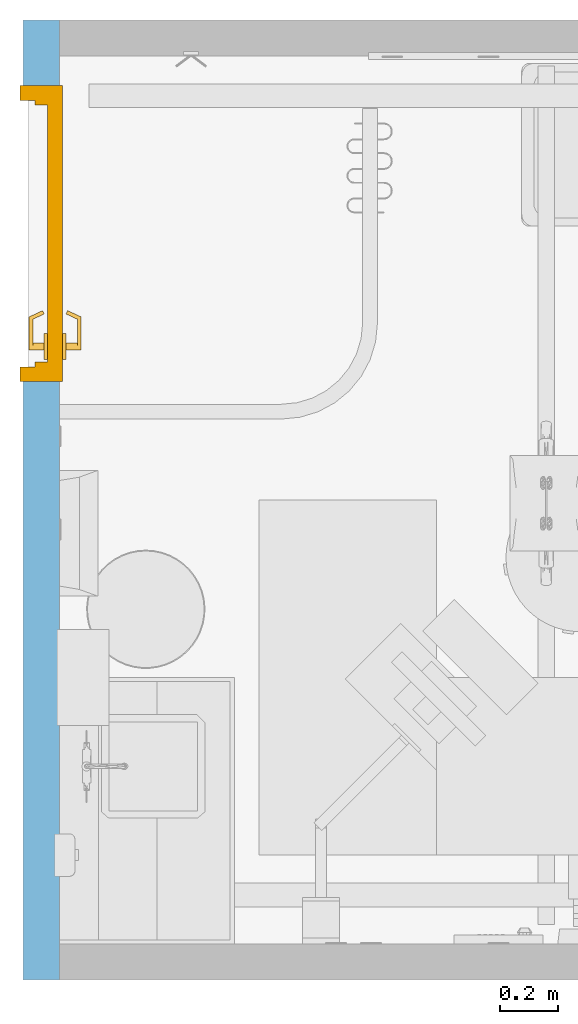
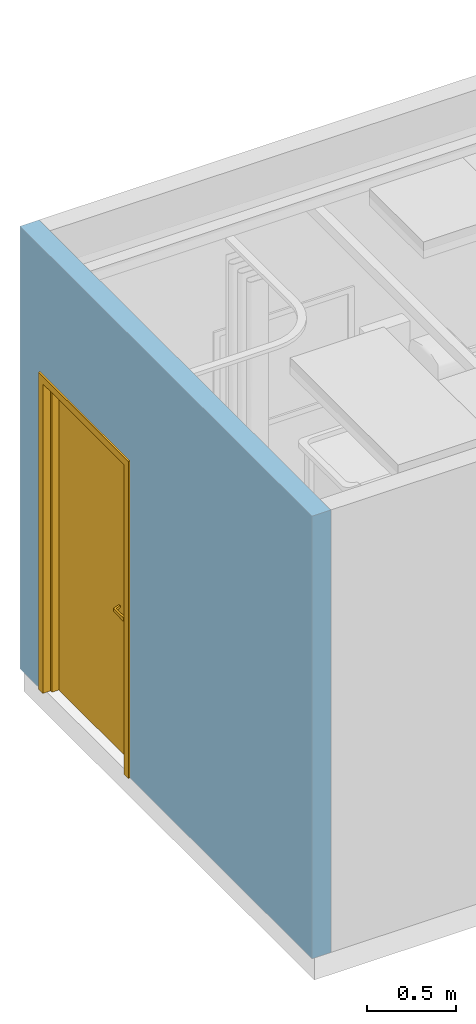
# One storey, part 3 of 8: 1 door, 1 opening, plus 1 element that does not belong to this part.
"""IFC2X3 building model written with IfcOpenShell, lengths in feet."""

import ifcopenshell
import ifcopenshell.guid

model = None  # the IFC model being written
_history = None  # IfcOwnerHistory: only IFC2X3 demands one
_inside = {}  # id of a spatial element -> (the spatial element, [elements in it])
_under = {}  # id of a project, library or spatial element -> (it, [spatial elements below it])
_declared = {}  # id of a project -> (the project, [libraries it declares])
_typed = {}  # id of a type object -> (the type object, [elements of that type])
_made_of = {}  # id of a material, layer set ... -> (it, [elements and type objects made of it])


def new_model(schema):
    """Start an empty IFC model of exactly this schema.

    Asked for "IFC4X3", IfcOpenShell would pick the latest addendum, in which some entities
    have other attributes; the version numbers below select the first issue.
    IFC2X3 requires an IfcOwnerHistory on every rooted entity: one is made here for all.
    """
    global model, _history
    if schema == "IFC4X3":
        model = ifcopenshell.file(schema_version=(4, 3, 0, 0))
    else:
        model = ifcopenshell.file(schema=schema)
    _inside.clear()
    _under.clear()
    _declared.clear()
    _typed.clear()
    _made_of.clear()
    _history = None
    if model.schema == "IFC2X3":
        org = make("IfcOrganization", Name="unknown")
        user = make(
            "IfcPersonAndOrganization",
            ThePerson=make("IfcPerson", FamilyName="unknown"),
            TheOrganization=org,
        )
        app = make(
            "IfcApplication",
            ApplicationDeveloper=org,
            Version="unknown",
            ApplicationFullName="unknown",
            ApplicationIdentifier="unknown",
        )
        _history = make(
            "IfcOwnerHistory",
            OwningUser=user,
            OwningApplication=app,
            ChangeAction="ADDED",
            CreationDate=0,
        )
    return model


def make(cls, **values):
    """One entity of the class cls with the attributes given. An attribute that is None is left unset."""
    return model.create_entity(
        cls, **{name: value for name, value in values.items() if value is not None}
    )


def entity(cls, *values):
    """Any entity or typed value of the class cls, its attributes in the order of the schema. None: left unset."""
    e = model.create_entity(cls)
    for i, value in enumerate(values):
        if value is not None:
            e[i] = value
    return e


def rooted(cls, **values):
    """An entity with a GlobalId (a new one), such as an element, a storey or a relation."""
    return make(cls, GlobalId=ifcopenshell.guid.new(), OwnerHistory=_history, **values)


def si_unit(unit_type, name, prefix=None):
    """IfcSIUnit, for example si_unit("LENGTHUNIT", "METRE", prefix="MILLI")."""
    return make("IfcSIUnit", UnitType=unit_type, Prefix=prefix, Name=name)


def converted_unit(unit_type, name, factor, base, dimensions=None, offset=None):
    """IfcConversionBasedUnit, such as the inch: factor (a typed value) times the base unit."""
    return make(
        "IfcConversionBasedUnit"
        if offset is None
        else "IfcConversionBasedUnitWithOffset",
        ConversionOffset=offset,
        Dimensions=None
        if dimensions is None
        else entity("IfcDimensionalExponents", *dimensions),
        UnitType=unit_type,
        Name=name,
        ConversionFactor=make(
            "IfcMeasureWithUnit", ValueComponent=factor, UnitComponent=base
        ),
    )


def derived_unit(unit_type, elements):
    """IfcDerivedUnit: a product of units, each with its exponent."""
    return make(
        "IfcDerivedUnit",
        Elements=[
            make("IfcDerivedUnitElement", Unit=unit, Exponent=power)
            for unit, power in elements
        ],
        UnitType=unit_type,
    )


def assignment(units):
    """IfcUnitAssignment: the units of a project."""
    return None if units is None else make("IfcUnitAssignment", Units=units)


def point(xyz):
    """IfcCartesianPoint."""
    return None if xyz is None else make("IfcCartesianPoint", Coordinates=xyz)


def direction(xyz):
    """IfcDirection."""
    return None if xyz is None else make("IfcDirection", DirectionRatios=xyz)


def frame(location, z_axis=None, x_axis=None):
    """IfcAxis2Placement3D, a coordinate frame: its origin and axes. An axis left out is left unset."""
    return make(
        "IfcAxis2Placement3D",
        Location=point(location),
        Axis=direction(z_axis),
        RefDirection=direction(x_axis),
    )


def frame_2d(location, x_axis=None):
    """IfcAxis2Placement2D, a coordinate frame in the plane: its origin and x axis."""
    return make(
        "IfcAxis2Placement2D", Location=point(location), RefDirection=direction(x_axis)
    )


def origin():
    """The frame at (0, 0, 0) with its axes left unset."""
    return frame((0.0, 0.0, 0.0))


def place(relative_to, where):
    """IfcLocalPlacement: puts the frame where relative to a parent placement (None: the world)."""
    return make(
        "IfcLocalPlacement", PlacementRelTo=relative_to, RelativePlacement=where
    )


def context(
    kind, dimensions, precision=None, world=None, true_north=None, identifier=None
):
    """IfcGeometricRepresentationContext, for example the 3D "Model" context."""
    return make(
        "IfcGeometricRepresentationContext",
        ContextIdentifier=identifier,
        ContextType=kind,
        CoordinateSpaceDimension=dimensions,
        Precision=precision,
        WorldCoordinateSystem=world,
        TrueNorth=true_north,
    )


def subcontext(parent, identifier, kind, view, scale=None):
    """IfcGeometricRepresentationSubContext, for example "Body" below "Model"."""
    return make(
        "IfcGeometricRepresentationSubContext",
        ContextIdentifier=identifier,
        ContextType=kind,
        ParentContext=parent,
        TargetScale=scale,
        TargetView=view,
    )


def project(units=None, contexts=None):
    """IfcProject with its units and contexts."""
    return rooted(
        "IfcProject",
        Name="project",
        RepresentationContexts=contexts,
        UnitsInContext=assignment(units),
    )


def spatial(cls, under=None, at=None, **own):
    """A site, building, storey or space (cls), placed at a placement, below another one or the project."""
    s = rooted(cls, ObjectPlacement=at, **own)
    if under is not None:
        _under.setdefault(under.id(), (under, []))[1].append(s)
    return s


def profile(cls, at=None, kind="AREA", **sizes):
    """A parametric profile (cls). Its sizes go by their IFC names, for example OverallWidth=200.0."""
    return make(cls, ProfileType=kind, Position=at, **sizes)


def rectangle(**sizes):
    """IfcRectangleProfileDef."""
    return profile("IfcRectangleProfileDef", **sizes)


def extrude(swept, where, along, depth):
    """IfcExtrudedAreaSolid: the profile swept, set in the frame where, extruded along a direction by depth."""
    return make(
        "IfcExtrudedAreaSolid",
        SweptArea=swept,
        Position=where,
        ExtrudedDirection=direction(along),
        Depth=depth,
    )


def faces_of(points, faces, orient=None, outer=None):
    """IfcFace entities. A face is a list of loops; a loop is a list of indices into points, from 0.

    orient and outer hold one flag for each loop. By default every Orientation is true, the
    first loop of a face is its IfcFaceOuterBound and the others are IfcFaceBound.
    """
    made = []
    for i, loops in enumerate(faces):
        bounds = []
        for j, loop in enumerate(loops):
            is_outer = j == 0 if outer is None else outer[i][j]
            bounds.append(
                make(
                    "IfcFaceOuterBound" if is_outer else "IfcFaceBound",
                    Bound=make("IfcPolyLoop", Polygon=[points[k] for k in loop]),
                    Orientation=True if orient is None else orient[i][j],
                )
            )
        made.append(make("IfcFace", Bounds=bounds))
    return made


def faceted_brep(points, faces, orient=None, outer=None, voids=None):
    """IfcFacetedBrep: a solid bounded by flat faces; with voids (closed shells), ...WithVoids."""
    shared = [point(p) for p in points]
    hull = make("IfcClosedShell", CfsFaces=faces_of(shared, faces, orient, outer))
    if voids is None:
        return make("IfcFacetedBrep", Outer=hull)
    return make(
        "IfcFacetedBrepWithVoids",
        Outer=hull,
        Voids=[
            make(cls, CfsFaces=faces_of(shared, fs, o, b)) for cls, fs, o, b in voids
        ],
    )


def shape(context_of_items, identifier, shape_type, items):
    """IfcShapeRepresentation: the items that make up one representation, for example the "Body"."""
    return make(
        "IfcShapeRepresentation",
        ContextOfItems=context_of_items,
        RepresentationIdentifier=identifier,
        RepresentationType=shape_type,
        Items=items,
    )


def source(mapping_origin, context_of_items, identifier, shape_type, items):
    """IfcRepresentationMap: a shape defined once, which mapped items show again and again."""
    return make(
        "IfcRepresentationMap",
        MappingOrigin=mapping_origin,
        MappedRepresentation=shape(context_of_items, identifier, shape_type, items),
    )


def transform(
    local_origin,
    x_axis=None,
    y_axis=None,
    z_axis=None,
    scale=None,
    scale2=None,
    scale3=None,
    uniform=True,
):
    """IfcCartesianTransformationOperator3D, or its non-uniform kind. x_axis, y_axis, z_axis: its Axis1, 2, 3."""
    if uniform:
        return make(
            "IfcCartesianTransformationOperator3D",
            Axis1=direction(x_axis),
            Axis2=direction(y_axis),
            LocalOrigin=point(local_origin),
            Scale=scale,
            Axis3=direction(z_axis),
        )
    return make(
        "IfcCartesianTransformationOperator3DnonUniform",
        Axis1=direction(x_axis),
        Axis2=direction(y_axis),
        LocalOrigin=point(local_origin),
        Scale=scale,
        Axis3=direction(z_axis),
        Scale2=scale2,
        Scale3=scale3,
    )


def mapped(mapping_source, mapping_target):
    """IfcMappedItem: shows the shape of a source again, moved by a transform."""
    return make(
        "IfcMappedItem", MappingSource=mapping_source, MappingTarget=mapping_target
    )


def material(Name=None, Category=None):
    """IfcMaterial."""
    return make("IfcMaterial", Name=Name, Category=Category)


def layer(
    of_material, thickness, ventilated=None, Name=None, Category=None, Priority=None
):
    """IfcMaterialLayer: one layer of a wall or slab, of a material (None: an air gap)."""
    return make(
        "IfcMaterialLayer",
        Material=of_material,
        LayerThickness=thickness,
        IsVentilated=ventilated,
        Name=Name,
        Category=Category,
        Priority=Priority,
    )


def layer_set(layers, Name=None):
    """IfcMaterialLayerSet."""
    return make("IfcMaterialLayerSet", MaterialLayers=layers, LayerSetName=Name)


def layer_usage(for_layer_set, set_direction, sense, offset, extent=None):
    """IfcMaterialLayerSetUsage: how a layer set lies in its element."""
    return make(
        "IfcMaterialLayerSetUsage",
        ForLayerSet=for_layer_set,
        LayerSetDirection=set_direction,
        DirectionSense=sense,
        OffsetFromReferenceLine=offset,
        ReferenceExtent=extent,
    )


def made_of(thing, what):
    """Note that an element or type object is made of a material, layer set ...; save() writes the relation."""
    if what is not None:
        _made_of.setdefault(what.id(), (what, []))[1].append(thing)
    return thing


def type_object(cls, material=None, **own):
    """A type object (cls), such as IfcWallType, which elements share."""
    return made_of(rooted(cls, **own), material)


def type_shapes(of_type, sources):
    """Give a type object the sources (RepresentationMaps) that its elements show as mapped items."""
    of_type.RepresentationMaps = sources


def element(
    cls,
    number,
    at=None,
    inside=None,
    cuts=None,
    type_object=None,
    material=None,
    context=None,
    identifier="Body",
    shape_type=None,
    held_by="IfcProductDefinitionShape",
    body=None,
    shapes=None,
    **own,
):
    """One element of the class cls, such as IfcWall. Its Tag is "e" and its number.

    at: its placement. inside: the storey or other place that contains it. cuts: it is an
    opening in that element (IfcRelVoidsElement). A single representation is given by context,
    identifier, shape_type and body (its items); several are given by shapes. held_by: the class
    of the entity that holds the representations. save() writes the other relations.
    """
    e = rooted(cls, Tag="e%d" % number, ObjectPlacement=at, **own)
    if body is not None:
        shapes = [shape(context, identifier, shape_type, body)]
    if shapes is not None:
        e.Representation = make(held_by, Representations=shapes)
    if inside is not None:
        _inside.setdefault(inside.id(), (inside, []))[1].append(e)
    if cuts is not None:
        rooted(
            "IfcRelVoidsElement", RelatingBuildingElement=cuts, RelatedOpeningElement=e
        )
    if type_object is not None:
        _typed.setdefault(type_object.id(), (type_object, []))[1].append(e)
    return made_of(e, material)


def fill(opening, filler):
    """IfcRelFillsElement: the door or window that sits in an opening."""
    return rooted(
        "IfcRelFillsElement",
        RelatingOpeningElement=opening,
        RelatedBuildingElement=filler,
    )


def aggregate(whole, parts):
    """IfcRelAggregates: a whole, such as a stair, and the parts it consists of."""
    return rooted("IfcRelAggregates", RelatingObject=whole, RelatedObjects=parts)


def save(model, path):
    """Write the relations noted so far, then the file.

    IfcRelAggregates (storeys below a building ...), IfcRelContainedInSpatialStructure (elements
    in a storey), IfcRelDefinesByType, IfcRelAssociatesMaterial and IfcRelDeclares: one each for
    every whole, place, type object, material and project.
    """
    for whole, parts in _under.values():
        aggregate(whole, parts)
    for where, things in _inside.values():
        rooted(
            "IfcRelContainedInSpatialStructure",
            RelatedElements=things,
            RelatingStructure=where,
        )
    for kind, things in _typed.values():
        rooted("IfcRelDefinesByType", RelatedObjects=things, RelatingType=kind)
    for what, things in _made_of.values():
        rooted("IfcRelAssociatesMaterial", RelatedObjects=things, RelatingMaterial=what)
    for by, libraries in _declared.values():
        rooted("IfcRelDeclares", RelatingContext=by, RelatedDefinitions=libraries)
    model.write(path)


model = new_model("IFC2X3")

# Units and contexts
model_context = context("Model", 3, precision=0.0001, world=origin(), true_north=direction((6.12303176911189e-17, 1.0)))
body_context = subcontext(model_context, "Body", "Model", "MODEL_VIEW")
ifc_project = project(units=[converted_unit("LENGTHUNIT", "FOOT", entity("IfcRatioMeasure", 0.3048), si_unit("LENGTHUNIT", "METRE"), dimensions=[1, 0, 0, 0, 0, 0, 0]), converted_unit("AREAUNIT", "SQUARE FOOT", entity("IfcRatioMeasure", 0.09290304), si_unit("AREAUNIT", "SQUARE_METRE"), dimensions=[2, 0, 0, 0, 0, 0, 0]), converted_unit("VOLUMEUNIT", "CUBIC FOOT", entity("IfcRatioMeasure", 0.028316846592), si_unit("VOLUMEUNIT", "CUBIC_METRE"), dimensions=[3, 0, 0, 0, 0, 0, 0]), converted_unit("PLANEANGLEUNIT", "DEGREE", entity("IfcRatioMeasure", 0.0174532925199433), si_unit("PLANEANGLEUNIT", "RADIAN"), dimensions=[0, 0, 0, 0, 0, 0, 0]), si_unit("MASSUNIT", "GRAM", prefix="KILO"), derived_unit("MASSDENSITYUNIT", [(si_unit("MASSUNIT", "GRAM", prefix="KILO"), 1), (si_unit("LENGTHUNIT", "METRE"), -3)]), si_unit("TIMEUNIT", "SECOND"), si_unit("FREQUENCYUNIT", "HERTZ"), si_unit("THERMODYNAMICTEMPERATUREUNIT", "DEGREE_CELSIUS"), derived_unit("THERMALTRANSMITTANCEUNIT", [(si_unit("MASSUNIT", "GRAM", prefix="KILO"), 1), (si_unit("THERMODYNAMICTEMPERATUREUNIT", "KELVIN"), -1), (si_unit("TIMEUNIT", "SECOND"), -3)]), derived_unit("VOLUMETRICFLOWRATEUNIT", [(si_unit("LENGTHUNIT", "METRE"), 3), (si_unit("TIMEUNIT", "SECOND"), -1)]), si_unit("ELECTRICCURRENTUNIT", "AMPERE"), si_unit("ELECTRICVOLTAGEUNIT", "VOLT"), si_unit("POWERUNIT", "WATT"), si_unit("FORCEUNIT", "NEWTON"), si_unit("ILLUMINANCEUNIT", "LUX"), si_unit("LUMINOUSFLUXUNIT", "LUMEN"), si_unit("LUMINOUSINTENSITYUNIT", "CANDELA"), derived_unit("USERDEFINED", [(si_unit("MASSUNIT", "GRAM", prefix="KILO"), -1), (si_unit("LENGTHUNIT", "METRE"), -2), (si_unit("TIMEUNIT", "SECOND"), 3), (si_unit("LUMINOUSFLUXUNIT", "LUMEN"), 1)]), derived_unit("LINEARVELOCITYUNIT", [(si_unit("LENGTHUNIT", "METRE"), 1), (si_unit("TIMEUNIT", "SECOND"), -1)]), si_unit("PRESSUREUNIT", "PASCAL"), derived_unit("USERDEFINED", [(si_unit("LENGTHUNIT", "METRE"), -2), (si_unit("MASSUNIT", "GRAM", prefix="KILO"), 1), (si_unit("TIMEUNIT", "SECOND"), -2)])], contexts=[model_context])

# Site, building, storey
site_placement = place(None, origin())
site = spatial("IfcSite", under=ifc_project, at=site_placement, Name="Default", CompositionType="ELEMENT")
building_placement = place(site_placement, origin())
building = spatial("IfcBuilding", under=site, at=building_placement, Name="OUTPATIENT / PACT CLINIC (Ch. 265)", CompositionType="ELEMENT")
storey_placement = place(building_placement, origin())
storey = spatial("IfcBuildingStorey", under=building, at=storey_placement, Name="DATUM", CompositionType="ELEMENT", Elevation=0.0)

# Wall, opening, door
ifc_material = material(Name="<Unnamed>")
ifc_layer = layer(ifc_material, 0.40625)
ifc_layer_set = layer_set([ifc_layer], Name="Basic Wall:Interior - 4 7/8\"")
ifc_layer_usage = layer_usage(ifc_layer_set, "AXIS2", "POSITIVE", -0.203125)
wall_type = type_object("IfcWallType", Name="Basic Wall:Interior - 4 7/8\"", PredefinedType="STANDARD", material=ifc_layer_set)
wall_placement = place(storey_placement, frame((-207.789054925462, -850.470556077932, 0.0), z_axis=(0.0, 0.0, 1.0), x_axis=(0.0, -1.0, 0.0)))
wall = element("IfcWallStandardCase", 1, at=wall_placement, inside=storey, type_object=wall_type, material=ifc_layer_usage, Name="Basic Wall:Interior - 4 7/8\"", ObjectType="Basic Wall:Interior - 4 7/8\"", context=body_context, shape_type="SweptSolid", body=[
    extrude(rectangle(XDim=10.8125, YDim=0.40625, at=frame_2d((5.40625, 9.00668428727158e-15), x_axis=(-1.0, 0.0))), origin(), (0.0, 0.0, 1.0), 10.0),
])
opening_placement = place(wall_placement, frame((0.739583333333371, -0.203125, 0.0)))
opening = element("IfcOpeningElement", 2, at=opening_placement, cuts=wall, Name="Single - Flush:36\" x 84\":1", ObjectType="Opening", context=body_context, shape_type="SweptSolid", body=[
    extrude(rectangle(XDim=3.33333333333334, YDim=7.16666666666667, at=frame_2d((3.58333333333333, 1.66666666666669), x_axis=(0.0, -1.0))), frame((0.0, 0.0, 0.0), z_axis=(0.0, 1.0, 0.0), x_axis=(0.0, 0.0, 1.0)), (0.0, 0.0, 1.0), 0.40625),
])
door_style = type_object("IfcDoorStyle", Name="36\" x 84\"", ConstructionType="NOTDEFINED", OperationType="NOTDEFINED", ParameterTakesPrecedence=False, Sizeable=False)
shared_shape = source(origin(), body_context, "Body", "Brep", [
    faceted_brep([(2.62432039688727, 0.123080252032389, 3.36458333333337), (2.63071126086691, 0.109375, 3.36458333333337), (2.63071126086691, 0.109375, 3.30208333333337), (2.62432039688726, 0.12308025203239, 3.30208333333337), (2.57149311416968, 0.23636872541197, 3.31250000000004), (2.57149311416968, 0.23636872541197, 3.3541666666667), (2.53373028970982, 0.218759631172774, 3.31250000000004), (2.5865575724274, 0.105471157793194, 3.30208333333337), (2.6041666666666, 0.0677083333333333, 3.30208333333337), (2.6041666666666, 0.067708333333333, 3.36458333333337), (2.58655757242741, 0.105471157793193, 3.36458333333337), (2.53373028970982, 0.218759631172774, 3.3541666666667), (2.6041666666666, 0.109375, 3.30208333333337), (2.6041666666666, 0.109375, 3.36458333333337), (2.93619600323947, 0.0677083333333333, 3.29168707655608), (2.94639661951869, 0.0677083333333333, 3.29262754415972), (2.95605949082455, 0.0677083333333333, 3.29602842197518), (2.9646005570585, 0.0677083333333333, 3.3016841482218), (2.97150356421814, 0.0677083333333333, 3.30925286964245), (2.97635126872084, 0.0677083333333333, 3.31827710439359), (2.97885065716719, 0.0677083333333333, 3.32821139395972), (2.97885065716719, 0.0677083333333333, 3.33845527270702), (2.97635126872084, 0.0677083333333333, 3.34838956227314), (2.97150356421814, 0.0677083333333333, 3.35741379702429), (2.9646005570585, 0.0677083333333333, 3.36498251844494), (2.95605949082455, 0.0677083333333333, 3.37063824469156), (2.94639661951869, 0.0677083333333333, 3.37403912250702), (2.93619600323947, 0.0677083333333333, 3.37497959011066), (2.92566985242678, 0.109375, 3.29338137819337), (2.93619600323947, 0.109375, 3.29168707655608), (2.93619600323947, 0.109375, 3.37497959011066), (2.92566985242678, 0.109375, 3.37328528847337), (2.91591827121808, 0.109375, 3.36897516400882), (2.90757973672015, 0.109375, 3.36233141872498), (2.90120020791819, 0.109375, 3.35378904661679), (2.8971973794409, 0.109375, 3.34390735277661), (2.89583333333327, 0.109375, 3.33333333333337), (2.8971973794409, 0.109375, 3.32275931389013), (2.90120020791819, 0.109375, 3.31287762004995), (2.90757973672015, 0.109375, 3.30433524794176), (2.91591827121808, 0.109375, 3.29769150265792), (2.94568224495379, 0.109375, 3.29247795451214), (2.95473886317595, 0.109375, 3.2954000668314), (2.96289592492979, 0.109375, 3.30030065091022), (2.96972778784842, 0.109375, 3.30692347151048), (2.97487870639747, 0.109375, 3.31492291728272), (2.97808054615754, 0.109375, 3.32388185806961), (2.9791666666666, 0.109375, 3.33333333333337), (2.97808054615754, 0.109375, 3.34278480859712), (2.97487870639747, 0.109375, 3.35174374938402), (2.96972778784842, 0.109375, 3.35974319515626), (2.96289592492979, 0.109375, 3.36636601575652), (2.95473886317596, 0.109375, 3.37126659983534), (2.94568224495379, 0.109375, 3.3741887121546), (2.97774690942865, 0.234375, 3.34411746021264), (2.9791666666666, 0.234375, 3.33333333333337), (2.97358439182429, 0.234375, 3.3541666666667), (2.96696278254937, 0.234375, 3.36279611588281), (2.95833333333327, 0.234375, 3.36941772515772), (2.94828412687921, 0.234375, 3.37358024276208), (2.93749999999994, 0.234375, 3.37500000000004), (2.92671587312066, 0.234375, 3.37358024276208), (2.9166666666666, 0.234375, 3.36941772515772), (2.9080372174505, 0.234375, 3.36279611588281), (2.90141560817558, 0.234375, 3.3541666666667), (2.89725309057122, 0.234375, 3.34411746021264), (2.89583333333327, 0.234375, 3.33333333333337), (2.89725309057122, 0.234375, 3.3225492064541), (2.90141560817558, 0.234375, 3.31250000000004), (2.9080372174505, 0.234375, 3.30387055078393), (2.9166666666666, 0.234375, 3.29724894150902), (2.92671587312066, 0.234375, 3.29308642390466), (2.93749999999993, 0.234375, 3.2916666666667), (2.94828412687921, 0.234375, 3.29308642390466), (2.95833333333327, 0.234375, 3.29724894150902), (2.96696278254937, 0.234375, 3.30387055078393), (2.97358439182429, 0.234375, 3.31250000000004), (2.97774690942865, 0.234375, 3.3225492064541), (2.86458333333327, 0.234375, 3.4596287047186), (2.8343802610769, 0.234375, 3.43645307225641), (2.89975555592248, 0.234375, 3.47419751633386), (2.93749999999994, 0.234375, 3.4791666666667), (2.97524444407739, 0.234375, 3.47419751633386), (3.0104166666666, 0.234375, 3.4596287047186), (3.04061973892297, 0.234375, 3.43645307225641), (3.06379537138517, 0.234375, 3.40625000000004), (3.07836418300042, 0.234375, 3.37107777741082), (3.08333333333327, 0.234375, 3.33333333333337), (3.07836418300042, 0.234375, 3.29558888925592), (3.06379537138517, 0.234375, 3.2604166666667), (3.04061973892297, 0.234375, 3.23021359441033), (3.0104166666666, 0.234375, 3.20703796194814), (2.97524444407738, 0.234375, 3.19246915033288), (2.93749999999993, 0.234375, 3.18750000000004), (2.89975555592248, 0.234375, 3.19246915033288), (2.86458333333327, 0.234375, 3.20703796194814), (2.8343802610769, 0.234375, 3.23021359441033), (2.8112046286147, 0.234375, 3.2604166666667), (2.79663581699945, 0.234375, 3.29558888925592), (2.7916666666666, 0.234375, 3.33333333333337), (2.79663581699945, 0.234375, 3.37107777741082), (2.8112046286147, 0.234375, 3.40625000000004), (2.8343802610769, 0.276041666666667, 3.23021359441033), (2.8112046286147, 0.276041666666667, 3.2604166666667), (2.79663581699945, 0.276041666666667, 3.29558888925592), (2.7916666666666, 0.276041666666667, 3.33333333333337), (2.79663581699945, 0.276041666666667, 3.37107777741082), (2.8112046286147, 0.276041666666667, 3.40625000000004), (2.8343802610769, 0.276041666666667, 3.43645307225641), (2.86458333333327, 0.276041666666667, 3.4596287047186), (2.89975555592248, 0.276041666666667, 3.47419751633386), (2.93749999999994, 0.276041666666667, 3.4791666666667), (2.97524444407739, 0.276041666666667, 3.47419751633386), (3.0104166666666, 0.276041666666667, 3.4596287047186), (3.04061973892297, 0.276041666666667, 3.43645307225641), (3.06379537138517, 0.276041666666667, 3.40625000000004), (3.07836418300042, 0.276041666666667, 3.37107777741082), (3.08333333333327, 0.276041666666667, 3.33333333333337), (3.07836418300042, 0.276041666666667, 3.29558888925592), (3.06379537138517, 0.276041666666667, 3.2604166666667), (3.04061973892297, 0.276041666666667, 3.23021359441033), (3.0104166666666, 0.276041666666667, 3.20703796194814), (2.97524444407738, 0.276041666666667, 3.19246915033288), (2.93749999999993, 0.276041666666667, 3.18750000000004), (2.89975555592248, 0.276041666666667, 3.19246915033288), (2.86458333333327, 0.276041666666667, 3.20703796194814)], [[[0, 1, 2, 3, 4, 5]], [[6, 7, 8, 9, 10, 11]], [[3, 2, 12, 8, 7]], [[4, 3, 7, 6]], [[5, 4, 6, 11]], [[0, 5, 11, 10]], [[1, 0, 10, 9, 13]], [[9, 8, 14, 15, 16, 17, 18, 19, 20, 21, 22, 23, 24, 25, 26, 27]], [[28, 29, 12, 2, 1, 13, 30, 31, 32, 33, 34, 35, 36, 37, 38, 39, 40]], [[14, 8, 12, 29]], [[41, 14, 29]], [[42, 15, 41]], [[17, 43, 44]], [[44, 45, 18]], [[42, 43, 16]], [[46, 19, 45]], [[42, 16, 15]], [[15, 14, 41]], [[19, 18, 45]], [[17, 44, 18]], [[17, 16, 43]], [[20, 19, 46]], [[46, 47, 20]], [[48, 21, 47]], [[49, 22, 48]], [[24, 50, 51]], [[51, 52, 25]], [[49, 50, 23]], [[53, 26, 52]], [[24, 23, 50]], [[23, 22, 49]], [[22, 21, 48]], [[27, 26, 53]], [[25, 52, 26]], [[25, 24, 51]], [[27, 53, 30]], [[47, 21, 20]], [[9, 27, 30, 13]], [[54, 48, 55]], [[56, 49, 54]], [[51, 57, 58]], [[56, 57, 50]], [[52, 58, 59]], [[54, 49, 48]], [[48, 47, 55]], [[52, 51, 58]], [[50, 57, 51]], [[50, 49, 56]], [[53, 52, 59]], [[59, 60, 53]], [[61, 30, 60]], [[62, 31, 61]], [[33, 63, 64]], [[64, 65, 34]], [[62, 63, 32]], [[66, 35, 65]], [[62, 32, 31]], [[31, 30, 61]], [[35, 34, 65]], [[33, 64, 34]], [[33, 32, 63]], [[36, 35, 66]], [[60, 30, 53]], [[67, 37, 66]], [[68, 38, 67]], [[40, 69, 70]], [[68, 69, 39]], [[28, 70, 71]], [[67, 38, 37]], [[37, 36, 66]], [[28, 40, 70]], [[39, 69, 40]], [[39, 38, 68]], [[29, 28, 71]], [[71, 72, 29]], [[73, 41, 72]], [[74, 42, 73]], [[44, 75, 76]], [[76, 77, 45]], [[74, 75, 43]], [[55, 46, 77]], [[74, 43, 42]], [[42, 41, 73]], [[46, 45, 77]], [[44, 76, 45]], [[44, 43, 75]], [[47, 46, 55]], [[72, 41, 29]], [[62, 61, 78]], [[79, 62, 78]], [[62, 79, 63]], [[61, 80, 78]], [[80, 61, 60]], [[80, 60, 81]], [[59, 81, 60]], [[81, 59, 82]], [[59, 58, 82]], [[83, 82, 58]], [[57, 83, 58]], [[83, 57, 84]], [[56, 84, 57]], [[85, 84, 56]], [[54, 85, 56]], [[86, 85, 54]], [[86, 54, 55]], [[86, 55, 87]], [[87, 55, 77]], [[87, 77, 88]], [[88, 77, 76]], [[88, 76, 89]], [[90, 89, 76]], [[90, 76, 75]], [[75, 91, 90]], [[75, 74, 91]], [[92, 91, 74]], [[73, 92, 74]], [[73, 93, 92]], [[93, 73, 72]], [[72, 94, 93]], [[71, 94, 72]], [[94, 71, 95]], [[70, 95, 71]], [[96, 95, 70]], [[96, 70, 69]], [[96, 69, 97]], [[97, 69, 68]], [[97, 68, 98]], [[67, 98, 68]], [[99, 98, 67]], [[67, 66, 99]], [[66, 100, 99]], [[100, 66, 65]], [[100, 65, 101]], [[65, 64, 101]], [[63, 101, 64]], [[79, 101, 63]], [[102, 103, 104, 105, 106, 107, 108, 109, 110, 111, 112, 113, 114, 115, 116, 117, 118, 119, 120, 121, 122, 123, 124, 125]], [[116, 86, 87, 117]], [[115, 85, 86, 116]], [[83, 84, 114, 113]], [[115, 114, 84, 85]], [[82, 83, 113, 112]], [[81, 82, 112, 111]], [[110, 80, 81, 111]], [[109, 78, 80, 110]], [[101, 79, 108, 107]], [[109, 108, 79, 78]], [[100, 101, 107, 106]], [[99, 100, 106, 105]], [[104, 98, 99, 105]], [[103, 97, 98, 104]], [[95, 96, 102, 125]], [[103, 102, 96, 97]], [[94, 95, 125, 124]], [[93, 94, 124, 123]], [[122, 92, 93, 123]], [[121, 91, 92, 122]], [[89, 90, 120, 119]], [[121, 120, 90, 91]], [[88, 89, 119, 118]], [[87, 88, 118, 117]]]),
    faceted_brep([(2.62432039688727, 0.595669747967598, 3.30208333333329), (2.63071126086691, 0.609374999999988, 3.30208333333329), (2.63071126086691, 0.609374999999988, 3.36458333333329), (2.62432039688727, 0.595669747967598, 3.36458333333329), (2.57149311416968, 0.482381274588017, 3.35416666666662), (2.57149311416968, 0.482381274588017, 3.31249999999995), (2.53373028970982, 0.499990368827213, 3.35416666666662), (2.58655757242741, 0.613278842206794, 3.36458333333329), (2.6041666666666, 0.651041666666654, 3.36458333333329), (2.6041666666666, 0.651041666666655, 3.30208333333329), (2.58655757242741, 0.613278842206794, 3.30208333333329), (2.53373028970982, 0.499990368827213, 3.31249999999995), (2.6041666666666, 0.609374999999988, 3.36458333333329), (2.6041666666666, 0.609374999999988, 3.30208333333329), (2.93619600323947, 0.651041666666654, 3.37497959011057), (2.94639661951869, 0.651041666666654, 3.37403912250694), (2.95605949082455, 0.651041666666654, 3.37063824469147), (2.9646005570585, 0.651041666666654, 3.36498251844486), (2.97150356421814, 0.651041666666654, 3.35741379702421), (2.97635126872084, 0.651041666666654, 3.34838956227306), (2.97885065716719, 0.651041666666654, 3.33845527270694), (2.97885065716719, 0.651041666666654, 3.32821139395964), (2.97635126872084, 0.651041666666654, 3.31827710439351), (2.97150356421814, 0.651041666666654, 3.30925286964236), (2.9646005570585, 0.651041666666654, 3.30168414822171), (2.95605949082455, 0.651041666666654, 3.2960284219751), (2.94639661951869, 0.651041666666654, 3.29262754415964), (2.93619600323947, 0.651041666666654, 3.291687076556), (2.92566985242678, 0.609374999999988, 3.37328528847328), (2.93619600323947, 0.609374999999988, 3.37497959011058), (2.93619600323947, 0.609374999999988, 3.291687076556), (2.92566985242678, 0.609374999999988, 3.29338137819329), (2.91591827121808, 0.609374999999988, 3.29769150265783), (2.90757973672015, 0.609374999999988, 3.30433524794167), (2.9012002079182, 0.609374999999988, 3.31287762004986), (2.89719737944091, 0.609374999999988, 3.32275931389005), (2.89583333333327, 0.609374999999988, 3.33333333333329), (2.89719737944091, 0.609374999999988, 3.34390735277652), (2.9012002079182, 0.609374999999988, 3.35378904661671), (2.90757973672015, 0.609374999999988, 3.3623314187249), (2.91591827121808, 0.609374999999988, 3.36897516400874), (2.94568224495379, 0.609374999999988, 3.37418871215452), (2.95473886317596, 0.609374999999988, 3.37126659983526), (2.96289592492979, 0.609374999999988, 3.36636601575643), (2.96972778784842, 0.609374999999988, 3.35974319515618), (2.97487870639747, 0.609374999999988, 3.35174374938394), (2.97808054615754, 0.609374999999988, 3.34278480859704), (2.9791666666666, 0.609374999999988, 3.33333333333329), (2.97808054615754, 0.609374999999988, 3.32388185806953), (2.97487870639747, 0.609374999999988, 3.31492291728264), (2.96972778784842, 0.609374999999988, 3.30692347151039), (2.96289592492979, 0.609374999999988, 3.30030065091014), (2.95473886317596, 0.609374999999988, 3.29540006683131), (2.94568224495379, 0.609374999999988, 3.29247795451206), (2.97774690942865, 0.484374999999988, 3.32254920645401), (2.9791666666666, 0.484374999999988, 3.33333333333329), (2.97358439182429, 0.484374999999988, 3.31249999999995), (2.96696278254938, 0.484374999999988, 3.30387055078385), (2.95833333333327, 0.484374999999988, 3.29724894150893), (2.94828412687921, 0.484374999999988, 3.29308642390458), (2.93749999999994, 0.484374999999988, 3.29166666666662), (2.92671587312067, 0.484374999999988, 3.29308642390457), (2.9166666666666, 0.484374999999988, 3.29724894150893), (2.9080372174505, 0.484374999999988, 3.30387055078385), (2.90141560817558, 0.484374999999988, 3.31249999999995), (2.89725309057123, 0.484374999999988, 3.32254920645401), (2.89583333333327, 0.484374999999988, 3.33333333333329), (2.89725309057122, 0.484374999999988, 3.34411746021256), (2.90141560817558, 0.484374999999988, 3.35416666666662), (2.9080372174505, 0.484374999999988, 3.36279611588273), (2.9166666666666, 0.484374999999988, 3.36941772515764), (2.92671587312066, 0.484374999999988, 3.373580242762), (2.93749999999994, 0.484374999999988, 3.37499999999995), (2.94828412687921, 0.484374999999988, 3.373580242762), (2.95833333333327, 0.484374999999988, 3.36941772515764), (2.96696278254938, 0.484374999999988, 3.36279611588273), (2.97358439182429, 0.484374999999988, 3.35416666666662), (2.97774690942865, 0.484374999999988, 3.34411746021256), (2.86458333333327, 0.484374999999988, 3.20703796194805), (2.8343802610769, 0.484374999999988, 3.23021359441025), (2.89975555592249, 0.484374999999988, 3.1924691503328), (2.93749999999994, 0.484374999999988, 3.18749999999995), (2.97524444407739, 0.484374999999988, 3.1924691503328), (3.0104166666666, 0.484374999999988, 3.20703796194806), (3.04061973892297, 0.484374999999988, 3.23021359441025), (3.06379537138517, 0.484374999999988, 3.26041666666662), (3.07836418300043, 0.484374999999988, 3.29558888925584), (3.08333333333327, 0.484374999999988, 3.33333333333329), (3.07836418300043, 0.484374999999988, 3.37107777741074), (3.06379537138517, 0.484374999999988, 3.40624999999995), (3.04061973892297, 0.484374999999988, 3.43645307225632), (3.0104166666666, 0.484374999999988, 3.45962870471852), (2.97524444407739, 0.484374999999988, 3.47419751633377), (2.93749999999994, 0.484374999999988, 3.47916666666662), (2.89975555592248, 0.484374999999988, 3.47419751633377), (2.86458333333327, 0.484374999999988, 3.45962870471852), (2.8343802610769, 0.484374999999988, 3.43645307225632), (2.81120462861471, 0.484374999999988, 3.40624999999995), (2.79663581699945, 0.484374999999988, 3.37107777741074), (2.7916666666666, 0.484374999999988, 3.33333333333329), (2.79663581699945, 0.484374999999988, 3.29558888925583), (2.81120462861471, 0.484374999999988, 3.26041666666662), (2.8343802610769, 0.442708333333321, 3.43645307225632), (2.81120462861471, 0.442708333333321, 3.40624999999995), (2.79663581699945, 0.442708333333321, 3.37107777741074), (2.7916666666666, 0.442708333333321, 3.33333333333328), (2.79663581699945, 0.442708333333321, 3.29558888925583), (2.81120462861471, 0.442708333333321, 3.26041666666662), (2.8343802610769, 0.442708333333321, 3.23021359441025), (2.86458333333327, 0.442708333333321, 3.20703796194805), (2.89975555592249, 0.442708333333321, 3.1924691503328), (2.93749999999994, 0.442708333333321, 3.18749999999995), (2.97524444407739, 0.442708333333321, 3.1924691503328), (3.0104166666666, 0.442708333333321, 3.20703796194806), (3.04061973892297, 0.442708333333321, 3.23021359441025), (3.06379537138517, 0.442708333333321, 3.26041666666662), (3.07836418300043, 0.442708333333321, 3.29558888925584), (3.08333333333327, 0.442708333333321, 3.33333333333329), (3.07836418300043, 0.442708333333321, 3.37107777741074), (3.06379537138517, 0.442708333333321, 3.40624999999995), (3.04061973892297, 0.442708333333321, 3.43645307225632), (3.0104166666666, 0.442708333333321, 3.45962870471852), (2.97524444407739, 0.442708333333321, 3.47419751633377), (2.93749999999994, 0.442708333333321, 3.47916666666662), (2.89975555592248, 0.442708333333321, 3.47419751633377), (2.86458333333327, 0.442708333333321, 3.45962870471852)], [[[0, 1, 2, 3, 4, 5]], [[6, 7, 8, 9, 10, 11]], [[3, 2, 12, 8, 7]], [[4, 3, 7, 6]], [[5, 4, 6, 11]], [[0, 5, 11, 10]], [[1, 0, 10, 9, 13]], [[9, 8, 14, 15, 16, 17, 18, 19, 20, 21, 22, 23, 24, 25, 26, 27]], [[28, 29, 12, 2, 1, 13, 30, 31, 32, 33, 34, 35, 36, 37, 38, 39, 40]], [[14, 8, 12, 29]], [[41, 14, 29]], [[42, 15, 41]], [[17, 43, 44]], [[44, 45, 18]], [[42, 43, 16]], [[46, 19, 45]], [[42, 16, 15]], [[15, 14, 41]], [[19, 18, 45]], [[17, 44, 18]], [[17, 16, 43]], [[20, 19, 46]], [[46, 47, 20]], [[48, 21, 47]], [[49, 22, 48]], [[24, 50, 51]], [[51, 52, 25]], [[49, 50, 23]], [[53, 26, 52]], [[24, 23, 50]], [[23, 22, 49]], [[22, 21, 48]], [[27, 26, 53]], [[25, 52, 26]], [[25, 24, 51]], [[27, 53, 30]], [[47, 21, 20]], [[9, 27, 30, 13]], [[54, 48, 55]], [[56, 49, 54]], [[51, 57, 58]], [[56, 57, 50]], [[52, 58, 59]], [[54, 49, 48]], [[48, 47, 55]], [[52, 51, 58]], [[50, 57, 51]], [[50, 49, 56]], [[53, 52, 59]], [[59, 60, 53]], [[61, 30, 60]], [[62, 31, 61]], [[33, 63, 64]], [[64, 65, 34]], [[62, 63, 32]], [[66, 35, 65]], [[62, 32, 31]], [[31, 30, 61]], [[35, 34, 65]], [[33, 64, 34]], [[33, 32, 63]], [[36, 35, 66]], [[60, 30, 53]], [[67, 37, 66]], [[68, 38, 67]], [[40, 69, 70]], [[68, 69, 39]], [[28, 70, 71]], [[67, 38, 37]], [[37, 36, 66]], [[28, 40, 70]], [[39, 69, 40]], [[39, 38, 68]], [[29, 28, 71]], [[71, 72, 29]], [[73, 41, 72]], [[74, 42, 73]], [[44, 75, 76]], [[76, 77, 45]], [[74, 75, 43]], [[55, 46, 77]], [[74, 43, 42]], [[42, 41, 73]], [[46, 45, 77]], [[44, 76, 45]], [[44, 43, 75]], [[47, 46, 55]], [[72, 41, 29]], [[62, 61, 78]], [[79, 62, 78]], [[62, 79, 63]], [[61, 80, 78]], [[80, 61, 60]], [[80, 60, 81]], [[59, 81, 60]], [[81, 59, 82]], [[59, 58, 82]], [[83, 82, 58]], [[57, 83, 58]], [[83, 57, 84]], [[56, 84, 57]], [[85, 84, 56]], [[54, 85, 56]], [[86, 85, 54]], [[86, 54, 55]], [[86, 55, 87]], [[87, 55, 77]], [[87, 77, 88]], [[88, 77, 76]], [[88, 76, 89]], [[90, 89, 76]], [[90, 76, 75]], [[75, 91, 90]], [[75, 74, 91]], [[92, 91, 74]], [[73, 92, 74]], [[73, 93, 92]], [[93, 73, 72]], [[72, 94, 93]], [[71, 94, 72]], [[94, 71, 95]], [[70, 95, 71]], [[96, 95, 70]], [[96, 70, 69]], [[96, 69, 97]], [[97, 69, 68]], [[97, 68, 98]], [[67, 98, 68]], [[99, 98, 67]], [[67, 66, 99]], [[66, 100, 99]], [[100, 66, 65]], [[100, 65, 101]], [[65, 64, 101]], [[63, 101, 64]], [[79, 101, 63]], [[102, 103, 104, 105, 106, 107, 108, 109, 110, 111, 112, 113, 114, 115, 116, 117, 118, 119, 120, 121, 122, 123, 124, 125]], [[116, 86, 87, 117]], [[115, 85, 86, 116]], [[83, 84, 114, 113]], [[115, 114, 84, 85]], [[82, 83, 113, 112]], [[81, 82, 112, 111]], [[110, 80, 81, 111]], [[109, 78, 80, 110]], [[101, 79, 108, 107]], [[109, 108, 79, 78]], [[100, 101, 107, 106]], [[99, 100, 106, 105]], [[104, 98, 99, 105]], [[103, 97, 98, 104]], [[95, 96, 102, 125]], [[103, 102, 96, 97]], [[94, 95, 125, 124]], [[93, 94, 124, 123]], [[122, 92, 93, 123]], [[121, 91, 92, 122]], [[89, 90, 120, 119]], [[121, 120, 90, 91]], [[88, 89, 119, 118]], [[87, 88, 118, 117]]]),
    faceted_brep([(0.166666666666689, 0.442708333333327, 7.0), (3.16666666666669, 0.442708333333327, 7.0), (3.16666666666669, 0.442708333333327, 0.0), (0.166666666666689, 0.442708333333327, 0.0), (0.166666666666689, 0.276041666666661, 7.0), (0.166666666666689, 0.276041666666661, 0.0), (3.16666666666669, 0.276041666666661, 0.0), (3.16666666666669, 0.276041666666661, 7.0)], [[[0, 1, 2, 3]], [[4, 5, 6, 7]], [[1, 0, 4, 7]], [[2, 1, 7, 6]], [[3, 2, 6, 5]], [[0, 3, 5, 4]]]),
    faceted_brep([(0.166666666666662, 0.442708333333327, 0.0), (0.166666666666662, 0.276041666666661, 0.0), (0.218749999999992, 0.276041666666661, 0.0), (0.218749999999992, 0.130208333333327, 0.0), (0.166666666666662, 0.130208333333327, 0.0), (0.166666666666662, -0.0364583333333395, 0.0), (0.0, -0.0364583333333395, 0.0), (0.0, 0.442708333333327, 0.0), (0.166666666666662, 0.442708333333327, 7.0), (0.166666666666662, 0.276041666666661, 7.0), (3.16666666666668, 0.276041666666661, 7.0), (3.16666666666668, 0.276041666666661, 0.0), (3.11458333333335, 0.27604166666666, 0.0), (3.11458333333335, 0.276041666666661, 6.94791666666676), (0.218749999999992, 0.276041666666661, 6.94791666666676), (0.218749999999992, 0.130208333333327, 6.94791666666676), (3.11458333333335, 0.130208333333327, 6.94791666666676), (3.11458333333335, 0.130208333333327, 0.0), (3.16666666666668, 0.130208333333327, 0.0), (3.16666666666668, 0.130208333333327, 7.0), (0.166666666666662, 0.130208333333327, 7.0), (0.166666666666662, -0.0364583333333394, 7.0), (3.16666666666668, -0.0364583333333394, 7.0), (3.16666666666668, -0.0364583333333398, 0.0), (3.33333333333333, -0.0364583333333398, 0.0), (3.33333333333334, -0.0364583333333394, 7.16666666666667), (0.0, -0.0364583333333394, 7.16666666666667), (0.0, 0.442708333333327, 7.16666666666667), (3.33333333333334, 0.442708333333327, 7.16666666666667), (3.33333333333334, 0.442708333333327, 0.0), (3.16666666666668, 0.442708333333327, 0.0), (3.16666666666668, 0.442708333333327, 7.0)], [[[0, 1, 2, 3, 4, 5, 6, 7]], [[1, 0, 8, 9]], [[2, 1, 9, 10, 11, 12, 13, 14]], [[3, 2, 14, 15]], [[4, 3, 15, 16, 17, 18, 19, 20]], [[5, 4, 20, 21]], [[6, 5, 21, 22, 23, 24, 25, 26]], [[7, 6, 26, 27]], [[0, 7, 27, 28, 29, 30, 31, 8]], [[30, 11, 10, 31]], [[30, 29, 24, 23, 18, 17, 12, 11]], [[12, 17, 16, 13]], [[19, 18, 23, 22]], [[29, 28, 25, 24]], [[10, 9, 8, 31]], [[15, 14, 13, 16]], [[21, 20, 19, 22]], [[25, 28, 27, 26]]]),
])
type_shapes(door_style, [shared_shape])
door_placement = place(opening_placement, origin())
door = element("IfcDoor", 3, at=door_placement, inside=storey, type_object=door_style, Name="Single - Flush:36\" x 84\"", ObjectType="36\" x 84\"", OverallHeight=7.16666666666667, OverallWidth=3.33333333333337, context=body_context, shape_type="MappedRepresentation", body=[
    mapped(shared_shape, transform((0.0, 0.0, 0.0), scale=1.0)),
])
fill(opening, door)

save(model, "model.ifc")
